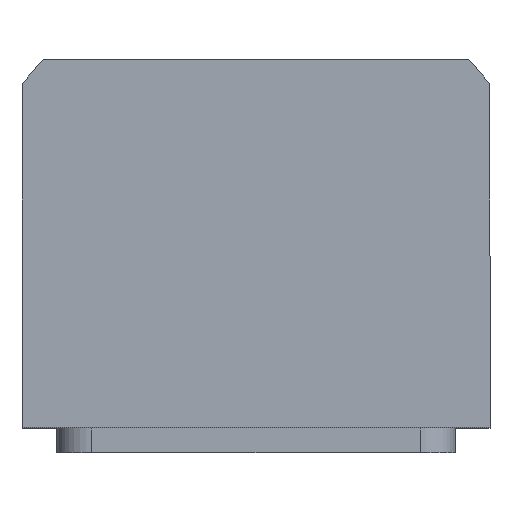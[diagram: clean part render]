
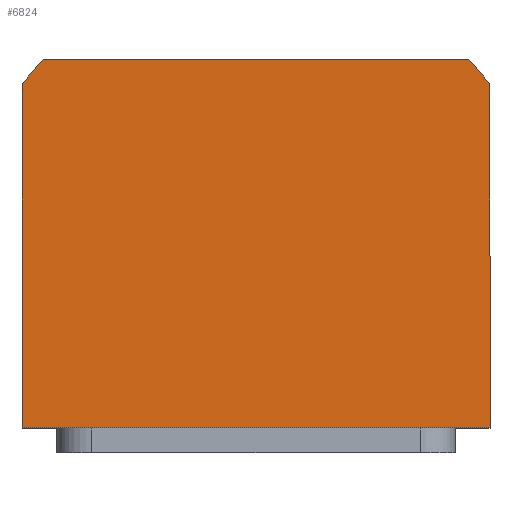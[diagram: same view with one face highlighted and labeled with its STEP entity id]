
A CAD part, top view. The second image highlights one B-rep face of the part: STEP entity #6824.
In plain terms, the highlighted planar face has unit normal (0, 0, 1).
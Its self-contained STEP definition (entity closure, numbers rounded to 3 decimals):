
#309 = ORIENTED_EDGE ( 'NONE', *, *, #4050, .T. ) ;
#431 = VERTEX_POINT ( 'NONE', #9226 ) ;
#487 = CARTESIAN_POINT ( 'NONE',  ( -42.688, 40., 55. ) ) ;
#499 = EDGE_CURVE ( 'NONE', #10489, #7061, #3705, .T. ) ;
#628 = LINE ( 'NONE', #8603, #10257 ) ;
#640 = EDGE_CURVE ( 'NONE', #10352, #431, #628, .T. ) ;
#674 = LINE ( 'NONE', #7475, #4154 ) ;
#748 = ORIENTED_EDGE ( 'NONE', *, *, #6137, .T. ) ;
#1000 = DIRECTION ( 'NONE',  ( 1., 0., 0. ) ) ;
#1062 = CARTESIAN_POINT ( 'NONE',  ( -47., -34., 55. ) ) ;
#1150 = ORIENTED_EDGE ( 'NONE', *, *, #640, .T. ) ;
#1299 = VERTEX_POINT ( 'NONE', #1612 ) ;
#1612 = CARTESIAN_POINT ( 'NONE',  ( 42.688, 40., 55. ) ) ;
#1981 = AXIS2_PLACEMENT_3D ( 'NONE', #5259, #4448, #1000 ) ;
#2178 = CARTESIAN_POINT ( 'NONE',  ( -47., -34., 55. ) ) ;
#2446 = PLANE ( 'NONE',  #6642 ) ;
#2544 = LINE ( 'NONE', #3481, #5614 ) ;
#3259 = CARTESIAN_POINT ( 'NONE',  ( -47., 34.832, 55. ) ) ;
#3309 = DIRECTION ( 'NONE',  ( 0., 0., 1. ) ) ;
#3481 = CARTESIAN_POINT ( 'NONE',  ( -42.688, 40., 55. ) ) ;
#3705 = CIRCLE ( 'NONE', #1981, 58.5 ) ;
#3962 = VERTEX_POINT ( 'NONE', #4441 ) ;
#4050 = EDGE_CURVE ( 'NONE', #7061, #10352, #10822, .T. ) ;
#4154 = VECTOR ( 'NONE', #8354, 1000. ) ;
#4167 = FACE_OUTER_BOUND ( 'NONE', #8380, .T. ) ;
#4441 = CARTESIAN_POINT ( 'NONE',  ( 47., 34.832, 55. ) ) ;
#4448 = DIRECTION ( 'NONE',  ( 0., 0., 1. ) ) ;
#5259 = CARTESIAN_POINT ( 'NONE',  ( 0., 0., 55. ) ) ;
#5614 = VECTOR ( 'NONE', #10245, 1000. ) ;
#5907 = DIRECTION ( 'NONE',  ( 0., 0., 1. ) ) ;
#5945 = DIRECTION ( 'NONE',  ( 1., 0., 0. ) ) ;
#6025 = CARTESIAN_POINT ( 'NONE',  ( 0., 0., 55. ) ) ;
#6122 = DIRECTION ( 'NONE',  ( 1., 0., 0. ) ) ;
#6137 = EDGE_CURVE ( 'NONE', #1299, #10489, #2544, .T. ) ;
#6642 = AXIS2_PLACEMENT_3D ( 'NONE', #8451, #3309, #10270 ) ;
#6824 = ADVANCED_FACE ( 'NONE', ( #4167 ), #2446, .T. ) ;
#7061 = VERTEX_POINT ( 'NONE', #3259 ) ;
#7198 = EDGE_CURVE ( 'NONE', #431, #3962, #674, .T. ) ;
#7268 = DIRECTION ( 'NONE',  ( 0., -1., 0. ) ) ;
#7475 = CARTESIAN_POINT ( 'NONE',  ( 47., 34.832, 55. ) ) ;
#7664 = AXIS2_PLACEMENT_3D ( 'NONE', #6025, #5907, #5945 ) ;
#7790 = ORIENTED_EDGE ( 'NONE', *, *, #7198, .T. ) ;
#8238 = VECTOR ( 'NONE', #7268, 1000. ) ;
#8354 = DIRECTION ( 'NONE',  ( 0., 1., 0. ) ) ;
#8380 = EDGE_LOOP ( 'NONE', ( #1150, #7790, #9810, #748, #10905, #309 ) ) ;
#8451 = CARTESIAN_POINT ( 'NONE',  ( 0., 0., 55. ) ) ;
#8581 = EDGE_CURVE ( 'NONE', #3962, #1299, #9637, .T. ) ;
#8603 = CARTESIAN_POINT ( 'NONE',  ( 47., -34., 55. ) ) ;
#9226 = CARTESIAN_POINT ( 'NONE',  ( 47., -34., 55. ) ) ;
#9637 = CIRCLE ( 'NONE', #7664, 58.5 ) ;
#9810 = ORIENTED_EDGE ( 'NONE', *, *, #8581, .T. ) ;
#10245 = DIRECTION ( 'NONE',  ( -1., 0., 0. ) ) ;
#10257 = VECTOR ( 'NONE', #6122, 1000. ) ;
#10270 = DIRECTION ( 'NONE',  ( 1., 0., 0. ) ) ;
#10352 = VERTEX_POINT ( 'NONE', #1062 ) ;
#10489 = VERTEX_POINT ( 'NONE', #487 ) ;
#10822 = LINE ( 'NONE', #2178, #8238 ) ;
#10905 = ORIENTED_EDGE ( 'NONE', *, *, #499, .T. ) ;
